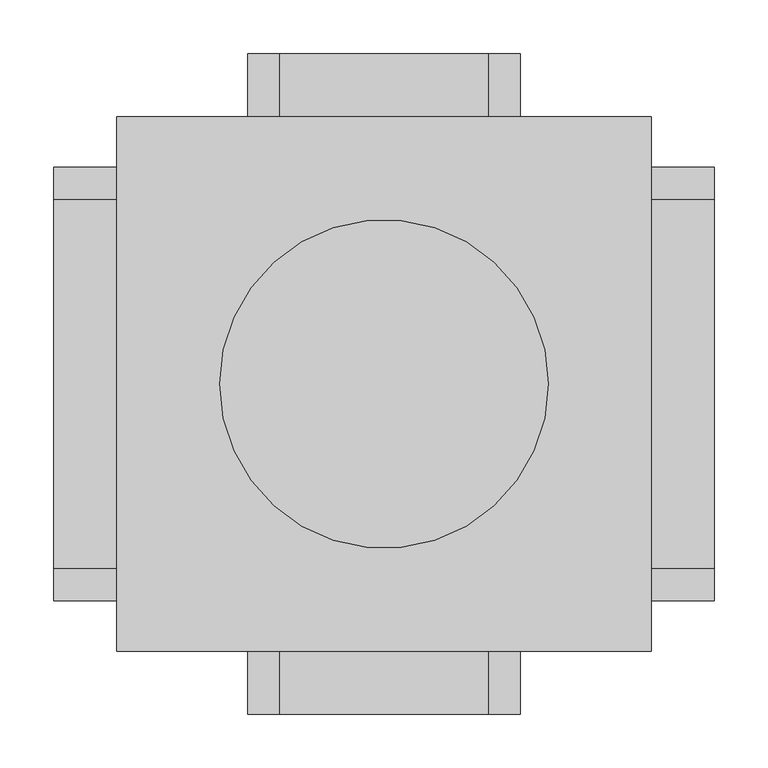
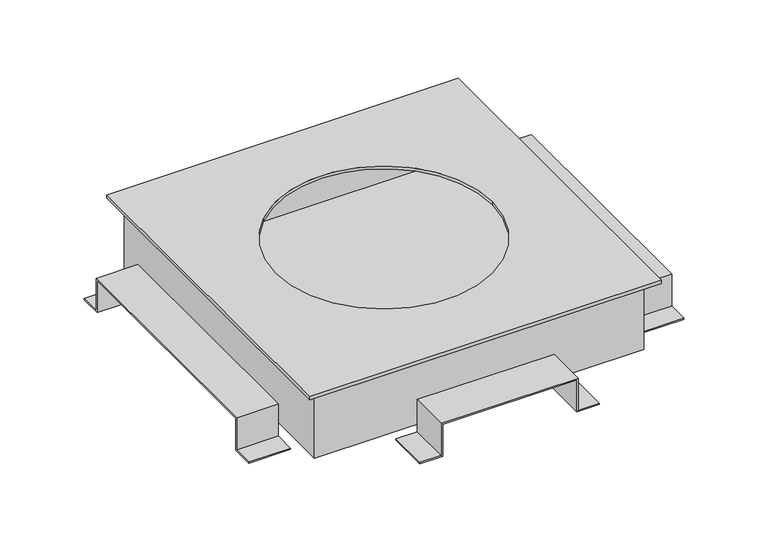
"""IFC4 building model written with IfcOpenShell, lengths in millimetres: cable carrier fitting geometry, Electrical-Installations_Hager_Universal-Junction-Box-With-Retaining-Tabs-Size-3 : Universal junction box with retaining tabs size 3."""

from ifc_helpers import new_model, si_unit, frame, origin, place, context, project, spatial, polyline, circle_curve, outline, extrude, faceted_brep, source, transform, mapped, element, save
from ifc_brep_helpers import plane_surface, revolved_surface, advanced_brep


def cable_carrier_fitting_74eefb0c(model_context):
    return source(origin(), model_context, "Body", "SolidModel", [
        extrude(outline(polyline([(-24.0, -127.0), (-24.0, -95.0), (24.0, -95.0), (24.0, 95.0), (-24.0, 95.0), (-24.0, 127.0), (-22.0, 127.0), (-22.0, 97.0), (26.0, 97.0), (26.0, -97.0), (-22.0, -97.0), (-22.0, -127.0), (-24.0, -127.0)])), frame((0.0, 249.0, 0.0), z_axis=(0.0, 1.0, 0.0), x_axis=(0.0, 0.0, 1.0)), (0.0, 0.0, 1.0), 59.0),
        extrude(outline(polyline([(-202.0, -24.0), (-202.0, -22.0), (-172.0, -22.0), (-172.0, 26.0), (172.0, 26.0), (172.0, -22.0), (202.0, -22.0), (202.0, -24.0), (170.0, -24.0), (170.0, 24.0), (-170.0, 24.0), (-170.0, -24.0), (-202.0, -24.0)])), frame((-308.0, 0.0, 0.0), z_axis=(1.0, 0.0, 0.0), x_axis=(0.0, 1.0, 0.0)), (0.0, 0.0, 1.0), 59.0),
        extrude(outline(polyline([(-24.0, -127.0), (-24.0, -95.0), (24.0, -95.0), (24.0, 95.0), (-24.0, 95.0), (-24.0, 127.0), (-22.0, 127.0), (-22.0, 97.0), (26.0, 97.0), (26.0, -97.0), (-22.0, -97.0), (-22.0, -127.0), (-24.0, -127.0)])), frame((0.0, -308.0, 0.0), z_axis=(0.0, 1.0, 0.0), x_axis=(0.0, 0.0, 1.0)), (0.0, 0.0, 1.0), 59.0),
        extrude(outline(polyline([(-202.0, -24.0), (-202.0, -22.0), (-172.0, -22.0), (-172.0, 26.0), (172.0, 26.0), (172.0, -22.0), (202.0, -22.0), (202.0, -24.0), (170.0, -24.0), (170.0, 24.0), (-170.0, 24.0), (-170.0, -24.0), (-202.0, -24.0)])), frame((249.0, 0.0, 0.0), z_axis=(1.0, 0.0, 0.0), x_axis=(0.0, 1.0, 0.0)), (0.0, 0.0, 1.0), 59.0),
        advanced_brep(
        [(-249.0, -249.0, 84.0), (249.0, -249.0, 84.0), (249.0, 249.0, 84.0), (-249.0, 249.0, 84.0), (-153.0, 0.0, 84.0), (153.0, 0.0, 84.0), (-249.0, -249.0, 79.0), (-249.0, 249.0, 79.0), (249.0, 249.0, 79.0), (249.0, -249.0, 79.0), (227.0, 227.0, 79.0), (-227.0, 227.0, 79.0), (-227.0, -227.0, 79.0), (227.0, -227.0, 79.0), (-153.0, 0.0, 79.7820613), (153.0, 0.0, 79.7820613), (227.0, 227.0, 79.7820613), (227.0, -227.0, 79.7820613), (-227.0, -227.0, 79.7820613), (-227.0, 227.0, 79.7820613)],
        [
            (0, 1),
            (1, 2),
            (2, 3),
            (3, 0),
            (4, 5, circle_curve(frame((0.0, 0.0, 84.0), z_axis=(0.0, 0.0, -1.0), x_axis=(1.0, 0.0, 0.0)), 153.0)),
            (5, 4, circle_curve(frame((0.0, 0.0, 84.0), z_axis=(0.0, 0.0, -1.0), x_axis=(1.0, 0.0, 0.0)), 153.0)),
            (6, 7),
            (7, 8),
            (8, 9),
            (9, 6),
            (10, 11),
            (11, 12),
            (12, 13),
            (13, 10),
            (0, 6),
            (9, 1),
            (8, 2),
            (7, 3),
            (4, 14),
            (14, 15, circle_curve(frame((0.0, 0.0, 79.7820613), z_axis=(0.0, 0.0, -1.0), x_axis=(1.0, 0.0, 0.0)), 153.0)),
            (15, 5),
            (15, 14, circle_curve(frame((0.0, 0.0, 79.7820613), z_axis=(0.0, 0.0, -1.0), x_axis=(1.0, 0.0, 0.0)), 153.0)),
            (16, 17),
            (17, 18),
            (18, 19),
            (19, 16),
            (19, 11),
            (10, 16),
            (18, 12),
            (17, 13),
        ],
        [
            plane_surface(frame((-249.0, -249.0, 84.0), z_axis=(0.0, 0.0, 1.0), x_axis=(1.0, 0.0, 0.0))),
            plane_surface(frame((-249.0, -249.0, 79.0), z_axis=(0.0, 0.0, -1.0), x_axis=(-1.0, 0.0, 0.0))),
            plane_surface(frame((-249.0, -249.0, 84.0), z_axis=(0.0, -1.0, 0.0), x_axis=(0.0, 0.0, -1.0))),
            plane_surface(frame((249.0, -249.0, 84.0), z_axis=(1.0, 0.0, 0.0), x_axis=(0.0, 0.0, -1.0))),
            plane_surface(frame((249.0, 249.0, 84.0), z_axis=(0.0, 1.0, 0.0), x_axis=(0.0, 0.0, -1.0))),
            plane_surface(frame((-249.0, 249.0, 84.0), z_axis=(-1.0, 0.0, 0.0), x_axis=(0.0, 0.0, -1.0))),
            revolved_surface(polyline([(153.0, 0.0, 79.7820613), (153.0, 0.0, 84.0)]), (0.0, 0.0, 0.0), (0.0, 0.0, -1.0)),
            plane_surface(frame((-227.0, 227.0, 79.7820613), z_axis=(0.0, 0.0, -1.0), x_axis=(-1.0, 0.0, 0.0))),
            plane_surface(frame((227.0, 227.0, 79.7820613), z_axis=(0.0, -1.0, 0.0), x_axis=(0.0, 0.0, -1.0))),
            plane_surface(frame((-227.0, 227.0, 79.7820613), z_axis=(1.0, 0.0, 0.0), x_axis=(0.0, 0.0, -1.0))),
            plane_surface(frame((-227.0, -227.0, 79.7820613), z_axis=(0.0, 1.0, 0.0), x_axis=(0.0, 0.0, -1.0))),
            plane_surface(frame((227.0, -227.0, 79.7820613), z_axis=(-1.0, 0.0, 0.0), x_axis=(0.0, 0.0, -1.0))),
        ],
        [
            (0, [[1, 2, 3, 4], [5, 6]]),
            (1, [[7, 8, 9, 10], [11, 12, 13, 14]]),
            (2, [[-1, 15, -10, 16]]),
            (3, [[-2, -16, -9, 17]]),
            (4, [[-3, -17, -8, 18]]),
            (5, [[-4, -18, -7, -15]]),
            (6, [[-5, 19, 20, 21]]),
            (6, [[-6, -21, 22, -19]]),
            (7, [[23, 24, 25, 26], [-20, -22]]),
            (8, [[-26, 27, -11, 28]]),
            (9, [[-25, 29, -12, -27]]),
            (10, [[-24, 30, -13, -29]]),
            (11, [[-23, -28, -14, -30]]),
        ],
    ),
        faceted_brep([(-233.0, 233.0, 79.0), (-233.0, -233.0, 79.0), (233.0, -233.0, 79.0), (233.0, 233.0, 79.0), (-227.0, 227.0, 79.0), (227.0, 227.0, 79.0), (227.0, -227.0, 79.0), (-227.0, -227.0, 79.0), (-233.0, 233.0, -24.0), (233.0, 233.0, -24.0), (233.0, -233.0, -24.0), (-233.0, -233.0, -24.0), (227.0, 227.0, -16.1362798), (-227.0, 227.0, -16.1362798), (-227.0, -227.0, -16.1362798), (227.0, -227.0, -16.1362798)], [[[0, 1, 2, 3], [4, 5, 6, 7]], [[8, 9, 10, 11]], [[1, 0, 8, 11]], [[2, 1, 11, 10]], [[3, 2, 10, 9]], [[0, 3, 9, 8]], [[12, 13, 14, 15]], [[13, 12, 5, 4]], [[14, 13, 4, 7]], [[15, 14, 7, 6]], [[12, 15, 6, 5]]]),
    ])


if __name__ == "__main__":
    model = new_model("IFC4")
    model_context = context("Model", 3, world=origin())
    ifc_project = project(units=[si_unit("LENGTHUNIT", "METRE", prefix="MILLI")], contexts=[model_context])
    site = spatial("IfcSite", under=ifc_project)
    building = spatial("IfcBuilding", under=site)
    placement = place(None, origin())
    cable_carrier_fitting_shape = cable_carrier_fitting_74eefb0c(model_context)
    element("IfcCableCarrierFitting", 1, ObjectType="Electrical-Installations_Hager_Universal-Junction-Box-With-Retaining-Tabs-Size-3 : Universal junction box with retaining tabs size 3", at=placement, inside=building, context=model_context, shape_type="MappedRepresentation", body=[
        mapped(cable_carrier_fitting_shape, transform((0.0, 0.0, 0.0), x_axis=(1.0, 0.0, 0.0), y_axis=(0.0, 1.0, 0.0), z_axis=(0.0, 0.0, 1.0))),
    ])
    save(model, "model.ifc")
